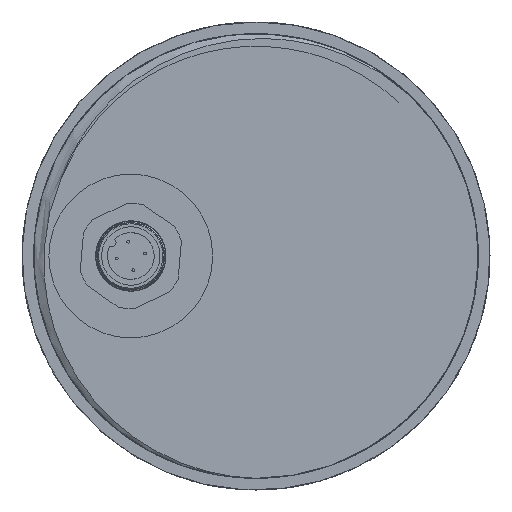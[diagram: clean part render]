
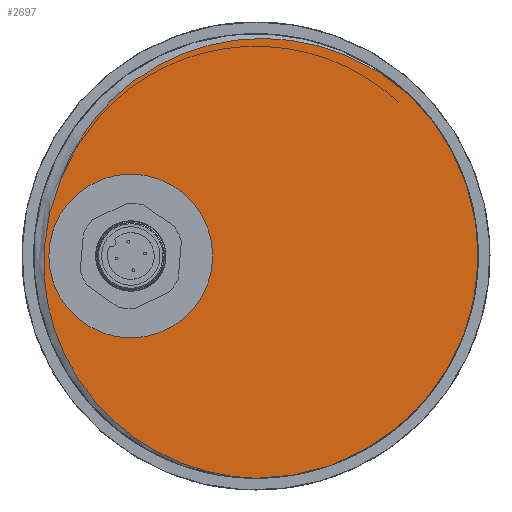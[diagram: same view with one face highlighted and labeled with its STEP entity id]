
A CAD part, left-side view. The second image highlights one B-rep face of the part: STEP entity #2697.
In plain terms, the highlighted planar face has unit normal (-1, 0, 0).
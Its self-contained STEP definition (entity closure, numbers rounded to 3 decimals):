
#849=B_SPLINE_CURVE_WITH_KNOTS('',3,(#5135,#5136,#5137,#5138,#5139,#5140,
#5141,#5142,#5143,#5144,#5145,#5146),.UNSPECIFIED.,.F.,.U.,(4,2,2,2,2,4),
(0.,1.408,2.832,4.273,5.731,
7.221),.UNSPECIFIED.);
#852=B_SPLINE_CURVE_WITH_KNOTS('',3,(#8413,#8414,#8415,#8416,#8417,#8418,
#8419,#8420,#8421,#8422,#8423,#8424),.UNSPECIFIED.,.F.,.U.,(4,2,2,2,2,4),
(0.,1.476,2.935,4.378,5.804,
7.23),.UNSPECIFIED.);
#961=PLANE('',#2869);
#1032=CIRCLE('',#2801,14.);
#1040=CIRCLE('',#2819,38.);
#1097=EDGE_CURVE('',#2238,#2238,#1032,.T.);
#1113=EDGE_CURVE('',#2254,#2255,#849,.T.);
#1117=EDGE_CURVE('',#2258,#2254,#852,.T.);
#1122=EDGE_CURVE('',#2255,#2258,#1040,.T.);
#1650=ORIENTED_EDGE('',*,*,#1097,.T.);
#1651=ORIENTED_EDGE('',*,*,#1113,.T.);
#1652=ORIENTED_EDGE('',*,*,#1122,.T.);
#1653=ORIENTED_EDGE('',*,*,#1117,.T.);
#2100=EDGE_LOOP('',(#1650));
#2101=EDGE_LOOP('',(#1651,#1652,#1653));
#2238=VERTEX_POINT('',#2977);
#2254=VERTEX_POINT('',#5147);
#2255=VERTEX_POINT('',#5148);
#2258=VERTEX_POINT('',#8425);
#2507=FACE_BOUND('',#2100,.T.);
#2508=FACE_BOUND('',#2101,.T.);
#2697=ADVANCED_FACE('',(#2507,#2508),#961,.T.);
#2801=AXIS2_PLACEMENT_3D('',#2976,#21856,#21857);
#2819=AXIS2_PLACEMENT_3D('',#9118,#21891,#21892);
#2869=AXIS2_PLACEMENT_3D('',#11385,#22012,$);
#2976=CARTESIAN_POINT('',(0.,21.401,0.));
#2977=CARTESIAN_POINT('',(0.,21.401,14.));
#5135=CARTESIAN_POINT('',(0.,33.305,13.265));
#5136=CARTESIAN_POINT('',(0.,35.175,8.961));
#5137=CARTESIAN_POINT('',(0.,36.182,4.33));
#5138=CARTESIAN_POINT('',(0.,36.374,-5.112));
#5139=CARTESIAN_POINT('',(0.,35.537,-9.833));
#5140=CARTESIAN_POINT('',(0.,32.09,-18.745));
#5141=CARTESIAN_POINT('',(0.,29.494,-22.843));
#5142=CARTESIAN_POINT('',(0.,22.844,-29.86));
#5143=CARTESIAN_POINT('',(0.,18.84,-32.698));
#5144=CARTESIAN_POINT('',(0.,9.87,-36.735));
#5145=CARTESIAN_POINT('',(0.,4.974,-37.856));
#5146=CARTESIAN_POINT('',(0.,0.,-38.));
#5147=CARTESIAN_POINT('',(0.,33.305,13.265));
#5148=CARTESIAN_POINT('',(0.,0.,-38.));
#8413=CARTESIAN_POINT('',(0.,-26.126,27.594));
#8414=CARTESIAN_POINT('',(0.,-22.457,30.871));
#8415=CARTESIAN_POINT('',(0.,-18.187,33.404));
#8416=CARTESIAN_POINT('',(0.,-8.965,36.662));
#8417=CARTESIAN_POINT('',(0.,-4.109,37.376));
#8418=CARTESIAN_POINT('',(0.,5.548,36.895));
#8419=CARTESIAN_POINT('',(0.,10.256,35.726));
#8420=CARTESIAN_POINT('',(0.,18.907,31.662));
#8421=CARTESIAN_POINT('',(0.,22.773,28.826));
#8422=CARTESIAN_POINT('',(0.,29.194,21.825));
#8423=CARTESIAN_POINT('',(0.,31.685,17.728));
#8424=CARTESIAN_POINT('',(0.,33.305,13.265));
#8425=CARTESIAN_POINT('',(0.,-26.126,27.594));
#9118=CARTESIAN_POINT('',(0.,0.,0.));
#11385=CARTESIAN_POINT('',(0.,0.,-20.));
#21856=DIRECTION('',(1.,0.,0.));
#21857=DIRECTION('',(0.,0.,14.));
#21891=DIRECTION('',(-1.,0.,0.));
#21892=DIRECTION('',(0.,0.,-38.));
#22012=DIRECTION('',(-1.,0.,0.));
